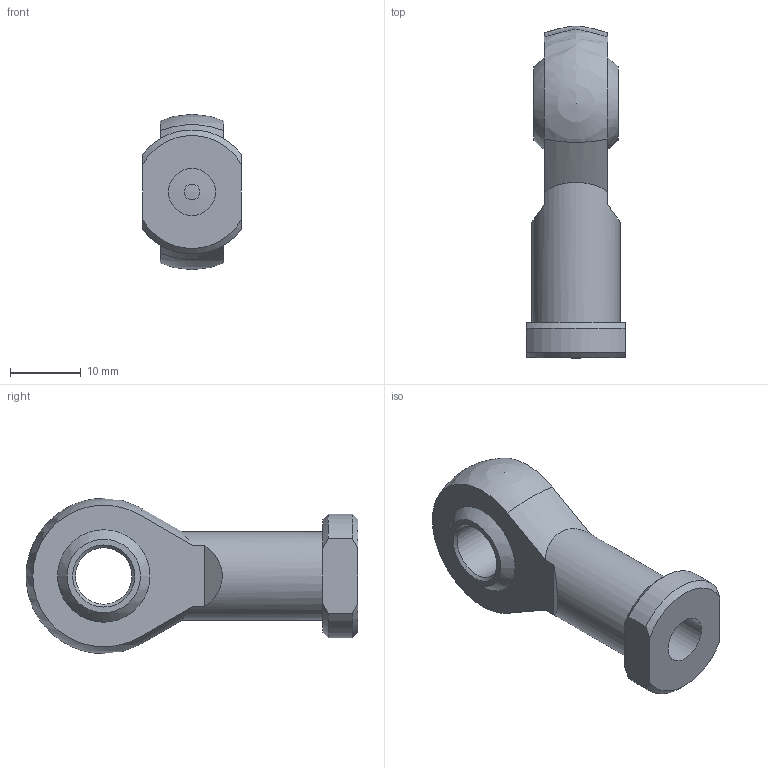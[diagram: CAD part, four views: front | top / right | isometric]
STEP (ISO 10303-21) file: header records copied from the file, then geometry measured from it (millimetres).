
FILE_DESCRIPTION(/* description */ ('Unknown'),/* implementation_level */ '2;1');
FILE_NAME(/* name */ 'WK20_J',/* time_stamp */ '2026-07-17T16:39:44+08:00',/* author */ ('Unknown'),/* organization */ ('Unknown'),/* preprocessor_version */ 'ST-DEVELOPER v16.7',/* originating_system */ 'DEX',/* authorisation */ $);
FILE_SCHEMA (('CONFIG_CONTROL_DESIGN'));
Length unit declared in the file: millimetre
Products named in the file (1): WK20_J
Bounding box: 14 x 47 x 22 mm (x, y, z)
Volume: 5898 mm3; surface area: 3219.8 mm2
Topology: 1 solids, 1 shells, 29 faces, 66 edges, 44 vertices
Faces by surface type: plane 10, cylinder 8, cone 7, sphere 4
Full cylindrical faces by diameter (mm): 2.25 x1, 6.647 x1, 8 x1, 12.5 x1
Entity records: 794 total; most frequent: CARTESIAN_POINT 154, DIRECTION 132, ORIENTED_EDGE 110, AXIS2_PLACEMENT_3D 57, EDGE_CURVE 55, EDGE_LOOP 44, FACE_BOUND 44, VERTEX_POINT 41
